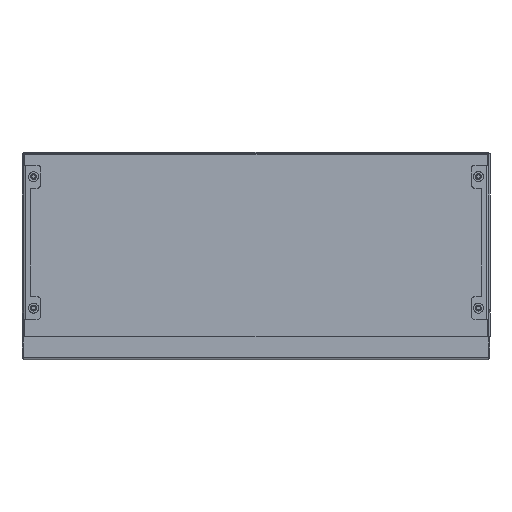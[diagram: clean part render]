
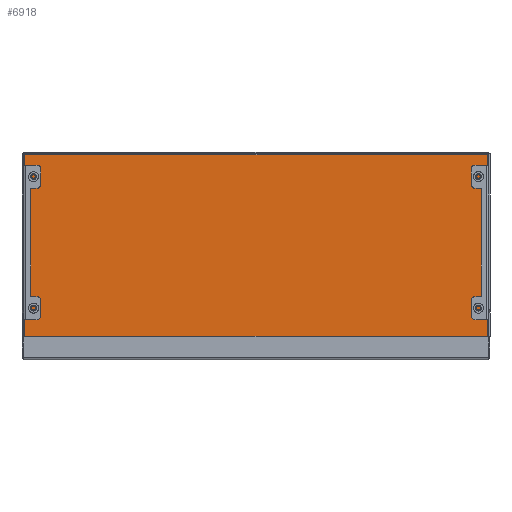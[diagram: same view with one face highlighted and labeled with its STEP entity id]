
A CAD part, front view. The second image highlights one B-rep face of the part: STEP entity #6918.
In plain terms, the highlighted planar face has unit normal (0, -1, 0).
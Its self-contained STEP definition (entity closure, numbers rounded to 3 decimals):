
#26 = CARTESIAN_POINT ( 'NONE',  ( 302.5, -1.4, -120.299 ) ) ;
#117 = EDGE_CURVE ( 'NONE', #4650, #2626, #1251, .T. ) ;
#288 = LINE ( 'NONE', #4242, #3920 ) ;
#291 = CARTESIAN_POINT ( 'NONE',  ( -299.6, -1.4, 117.881 ) ) ;
#422 = FACE_OUTER_BOUND ( 'NONE', #2712, .T. ) ;
#455 = EDGE_CURVE ( 'NONE', #5785, #5969, #6704, .T. ) ;
#544 = VECTOR ( 'NONE', #6256, 1000. ) ;
#591 = CARTESIAN_POINT ( 'NONE',  ( 298.881, -1.4, 118.6 ) ) ;
#671 = ORIENTED_EDGE ( 'NONE', *, *, #7445, .T. ) ;
#755 = CARTESIAN_POINT ( 'NONE',  ( 299.6, -1.4, -118.798 ) ) ;
#839 = CARTESIAN_POINT ( 'NONE',  ( 299.466, -1.4, 118.466 ) ) ;
#985 = DIRECTION ( 'NONE',  ( 0., -1., 0. ) ) ;
#989 = EDGE_CURVE ( 'NONE', #6652, #7037, #6224, .T. ) ;
#1178 = CARTESIAN_POINT ( 'NONE',  ( 299.6, -1.4, 118.6 ) ) ;
#1207 = ORIENTED_EDGE ( 'NONE', *, *, #117, .F. ) ;
#1251 = LINE ( 'NONE', #2690, #8165 ) ;
#1258 = CARTESIAN_POINT ( 'NONE',  ( -299.466, -1.4, 118.466 ) ) ;
#1384 = DIRECTION ( 'NONE',  ( 0.707, 0., -0.707 ) ) ;
#1632 = VECTOR ( 'NONE', #7608, 1000. ) ;
#1993 = CARTESIAN_POINT ( 'NONE',  ( 299.042, -1.4, -119.807 ) ) ;
#2106 = EDGE_CURVE ( 'NONE', #2309, #2663, #2401, .T. ) ;
#2115 = DIRECTION ( 'NONE',  ( 0., 1., 0. ) ) ;
#2130 = EDGE_CURVE ( 'NONE', #2663, #5785, #7093, .T. ) ;
#2213 = AXIS2_PLACEMENT_3D ( 'NONE', #1258, #2517, #6476 ) ;
#2258 = EDGE_CURVE ( 'NONE', #2487, #5136, #288, .T. ) ;
#2309 = VERTEX_POINT ( 'NONE', #4441 ) ;
#2401 = LINE ( 'NONE', #6806, #1632 ) ;
#2485 = AXIS2_PLACEMENT_3D ( 'NONE', #6079, #985, #2937 ) ;
#2487 = VERTEX_POINT ( 'NONE', #591 ) ;
#2517 = DIRECTION ( 'NONE',  ( 0., 1., 0. ) ) ;
#2626 = VERTEX_POINT ( 'NONE', #4263 ) ;
#2663 = VERTEX_POINT ( 'NONE', #6757 ) ;
#2690 = CARTESIAN_POINT ( 'NONE',  ( 89.617, -1.4, 89.617 ) ) ;
#2712 = EDGE_LOOP ( 'NONE', ( #5605, #7684, #5918, #671, #7639, #6789, #3519, #6936, #1207, #4750 ) ) ;
#2937 = DIRECTION ( 'NONE',  ( 0., 0., -1. ) ) ;
#3000 = DIRECTION ( 'NONE',  ( 0., 1., 0. ) ) ;
#3108 = AXIS2_PLACEMENT_3D ( 'NONE', #5507, #3653, #6972 ) ;
#3229 = LINE ( 'NONE', #26, #7534 ) ;
#3248 = CARTESIAN_POINT ( 'NONE',  ( -299.6, -1.4, -118.798 ) ) ;
#3332 = AXIS2_PLACEMENT_3D ( 'NONE', #4323, #3000, #7575 ) ;
#3404 = CIRCLE ( 'NONE', #8072, 0.6 ) ;
#3519 = ORIENTED_EDGE ( 'NONE', *, *, #2106, .F. ) ;
#3572 = CARTESIAN_POINT ( 'NONE',  ( 299.6, -1.4, 117.881 ) ) ;
#3653 = DIRECTION ( 'NONE',  ( 0., -1., 0. ) ) ;
#3920 = VECTOR ( 'NONE', #6102, 1000. ) ;
#4177 = CARTESIAN_POINT ( 'NONE',  ( -298.881, -1.4, 118.6 ) ) ;
#4242 = CARTESIAN_POINT ( 'NONE',  ( 302.5, -1.4, 118.6 ) ) ;
#4263 = CARTESIAN_POINT ( 'NONE',  ( 299.533, -1.4, -120.299 ) ) ;
#4323 = CARTESIAN_POINT ( 'NONE',  ( 302.5, -1.4, 121.5 ) ) ;
#4365 = PLANE ( 'NONE',  #3332 ) ;
#4441 = CARTESIAN_POINT ( 'NONE',  ( -299.533, -1.4, -120.299 ) ) ;
#4650 = VERTEX_POINT ( 'NONE', #1993 ) ;
#4750 = ORIENTED_EDGE ( 'NONE', *, *, #5078, .F. ) ;
#4966 = VECTOR ( 'NONE', #7302, 1000. ) ;
#5078 = EDGE_CURVE ( 'NONE', #7037, #4650, #8208, .T. ) ;
#5136 = VERTEX_POINT ( 'NONE', #4177 ) ;
#5507 = CARTESIAN_POINT ( 'NONE',  ( -299.466, -1.4, -119.383 ) ) ;
#5605 = ORIENTED_EDGE ( 'NONE', *, *, #989, .F. ) ;
#5785 = VERTEX_POINT ( 'NONE', #3248 ) ;
#5918 = ORIENTED_EDGE ( 'NONE', *, *, #2258, .T. ) ;
#5932 = DIRECTION ( 'NONE',  ( 0., 0., 1. ) ) ;
#5947 = EDGE_CURVE ( 'NONE', #6652, #2487, #3404, .T. ) ;
#5969 = VERTEX_POINT ( 'NONE', #291 ) ;
#6079 = CARTESIAN_POINT ( 'NONE',  ( 299.466, -1.4, -119.383 ) ) ;
#6102 = DIRECTION ( 'NONE',  ( -1., 0., 0. ) ) ;
#6224 = LINE ( 'NONE', #1178, #544 ) ;
#6256 = DIRECTION ( 'NONE',  ( 0., 0., -1. ) ) ;
#6476 = DIRECTION ( 'NONE',  ( 0., 0., 1. ) ) ;
#6652 = VERTEX_POINT ( 'NONE', #3572 ) ;
#6704 = LINE ( 'NONE', #8051, #4966 ) ;
#6757 = CARTESIAN_POINT ( 'NONE',  ( -299.042, -1.4, -119.807 ) ) ;
#6789 = ORIENTED_EDGE ( 'NONE', *, *, #2130, .F. ) ;
#6806 = CARTESIAN_POINT ( 'NONE',  ( -89.617, -1.4, 89.617 ) ) ;
#6918 = ADVANCED_FACE ( 'NONE', ( #422 ), #4365, .F. ) ;
#6936 = ORIENTED_EDGE ( 'NONE', *, *, #7463, .F. ) ;
#6972 = DIRECTION ( 'NONE',  ( 0., 0., -1. ) ) ;
#7037 = VERTEX_POINT ( 'NONE', #755 ) ;
#7093 = CIRCLE ( 'NONE', #3108, 0.6 ) ;
#7302 = DIRECTION ( 'NONE',  ( 0., 0., 1. ) ) ;
#7445 = EDGE_CURVE ( 'NONE', #5136, #5969, #7939, .T. ) ;
#7463 = EDGE_CURVE ( 'NONE', #2626, #2309, #3229, .T. ) ;
#7534 = VECTOR ( 'NONE', #7693, 1000. ) ;
#7575 = DIRECTION ( 'NONE',  ( 0., 0., 1. ) ) ;
#7608 = DIRECTION ( 'NONE',  ( 0.707, 0., 0.707 ) ) ;
#7639 = ORIENTED_EDGE ( 'NONE', *, *, #455, .F. ) ;
#7684 = ORIENTED_EDGE ( 'NONE', *, *, #5947, .T. ) ;
#7693 = DIRECTION ( 'NONE',  ( -1., 0., 0. ) ) ;
#7939 = CIRCLE ( 'NONE', #2213, 0.6 ) ;
#8051 = CARTESIAN_POINT ( 'NONE',  ( -299.6, -1.4, -121.799 ) ) ;
#8072 = AXIS2_PLACEMENT_3D ( 'NONE', #839, #2115, #5932 ) ;
#8165 = VECTOR ( 'NONE', #1384, 1000. ) ;
#8208 = CIRCLE ( 'NONE', #2485, 0.6 ) ;
